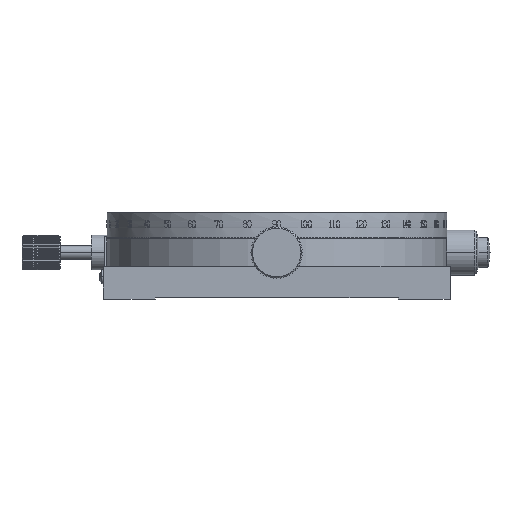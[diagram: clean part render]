
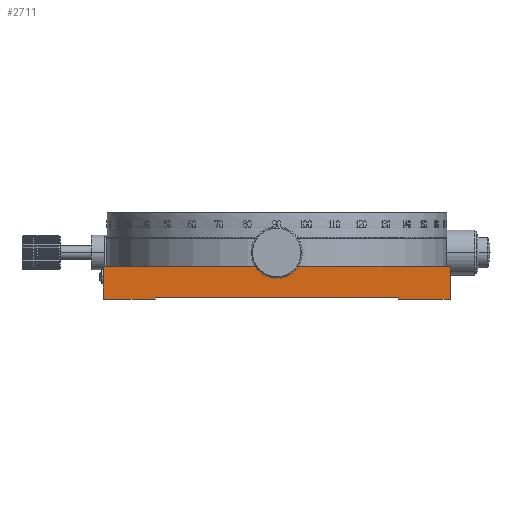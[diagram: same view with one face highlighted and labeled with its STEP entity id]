
A CAD part, left-side view. The second image highlights one B-rep face of the part: STEP entity #2711.
In plain terms, the highlighted planar face has unit normal (-1, 0, 0).
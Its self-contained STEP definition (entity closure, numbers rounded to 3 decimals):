
#2711=ADVANCED_FACE('',(#29187),#29186,.T.);
#29186=PLANE('',#45108);
#29187=FACE_OUTER_BOUND('',#45109,.T.);
#45105=CARTESIAN_POINT('',(-50.,60.,-0.95));
#45106=DIRECTION('',(-1.,0.,0.));
#45107=DIRECTION('',(0.,-1.,0.));
#45108=AXIS2_PLACEMENT_3D('',#45105,#45106,#45107);
#45109=EDGE_LOOP('',(#61567,#61568,#61569,#61570,#61571,#61572,#61573,#61574));
#61567=ORIENTED_EDGE('',*,*,#70921,.F.);
#61568=ORIENTED_EDGE('',*,*,#70815,.T.);
#61569=ORIENTED_EDGE('',*,*,#69716,.F.);
#61570=ORIENTED_EDGE('',*,*,#69680,.F.);
#61571=ORIENTED_EDGE('',*,*,#69719,.T.);
#61572=ORIENTED_EDGE('',*,*,#70824,.T.);
#61573=ORIENTED_EDGE('',*,*,#70926,.T.);
#61574=ORIENTED_EDGE('',*,*,#70929,.F.);
#69680=EDGE_CURVE('',#116074,#116081,#116082,.T.);
#69716=EDGE_CURVE('',#116081,#116301,#116329,.T.);
#69719=EDGE_CURVE('',#116074,#116343,#116350,.T.);
#70815=EDGE_CURVE('',#123690,#116301,#123691,.T.);
#70824=EDGE_CURVE('',#116343,#123744,#123752,.T.);
#70921=EDGE_CURVE('',#123690,#124389,#124390,.T.);
#70926=EDGE_CURVE('',#123744,#124415,#124422,.T.);
#70929=EDGE_CURVE('',#124389,#124415,#124442,.T.);
#116074=VERTEX_POINT('',#152153);
#116081=VERTEX_POINT('',#152157);
#116082=LINE('',#152158,#152159);
#116301=VERTEX_POINT('',#152290);
#116329=LINE('',#152306,#152307);
#116343=VERTEX_POINT('',#152314);
#116350=LINE('',#152318,#152319);
#123690=VERTEX_POINT('',#158947);
#123691=LINE('',#158948,#158949);
#123744=VERTEX_POINT('',#158981);
#123752=LINE('',#158986,#158987);
#124389=VERTEX_POINT('',#159372);
#124390=LINE('',#159373,#159374);
#124415=VERTEX_POINT('',#159386);
#124422=LINE('',#159390,#159391);
#124442=LINE('',#159401,#159402);
#152153=CARTESIAN_POINT('',(-50.,50.,9.5));
#152157=CARTESIAN_POINT('',(-50.,-50.,9.5));
#152158=CARTESIAN_POINT('',(-50.,50.,9.5));
#152159=VECTOR('',#152160,100.);
#152160=DIRECTION('',(0.,-1.,0.));
#152290=CARTESIAN_POINT('',(-50.,-50.,0.));
#152306=CARTESIAN_POINT('',(-50.,-50.,9.5));
#152307=VECTOR('',#152308,9.5);
#152308=DIRECTION('',(0.,0.,-1.));
#152314=CARTESIAN_POINT('',(-50.,50.,0.));
#152318=CARTESIAN_POINT('',(-50.,50.,9.5));
#152319=VECTOR('',#152320,9.5);
#152320=DIRECTION('',(0.,0.,-1.));
#158947=CARTESIAN_POINT('',(-50.,-35.,0.));
#158948=CARTESIAN_POINT('',(-50.,-35.,0.));
#158949=VECTOR('',#158950,15.);
#158950=DIRECTION('',(0.,-1.,0.));
#158981=CARTESIAN_POINT('',(-50.,35.,0.));
#158986=CARTESIAN_POINT('',(-50.,50.,0.));
#158987=VECTOR('',#158988,15.);
#158988=DIRECTION('',(0.,-1.,0.));
#159372=CARTESIAN_POINT('',(-50.,-35.,0.5));
#159373=CARTESIAN_POINT('',(-50.,-35.,0.));
#159374=VECTOR('',#159375,0.5);
#159375=DIRECTION('',(0.,0.,1.));
#159386=CARTESIAN_POINT('',(-50.,35.,0.5));
#159390=CARTESIAN_POINT('',(-50.,35.,0.));
#159391=VECTOR('',#159392,0.5);
#159392=DIRECTION('',(0.,0.,1.));
#159401=CARTESIAN_POINT('',(-50.,-35.,0.5));
#159402=VECTOR('',#159403,70.);
#159403=DIRECTION('',(0.,1.,0.));
